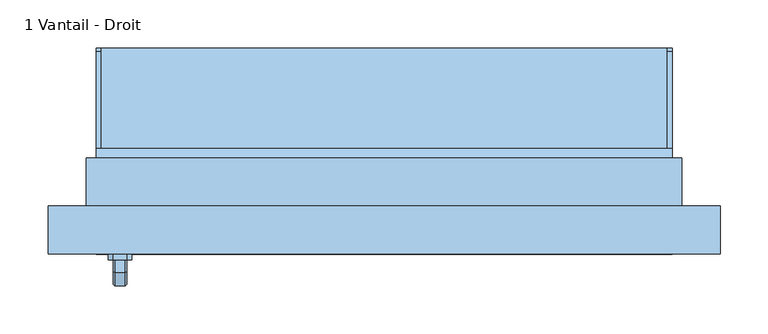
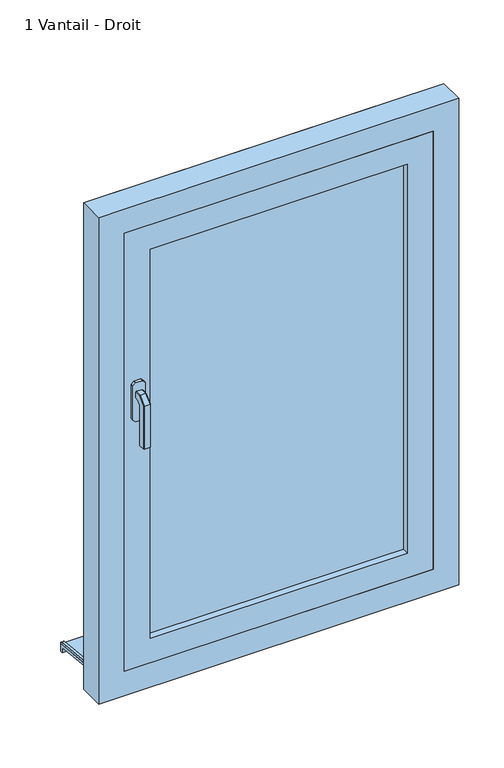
"""IFC4 building model written with IfcOpenShell, lengths in millimetres: window geometry, 1 Vantail - Droit : 0.60 m x 0.95 m - Appui en aluminium."""

from ifc_helpers import new_model, si_unit, point, frame, frame_2d, origin, place, context, project, spatial, polyline, circle_curve, trimmed, segment, composite_curve, outline, extrude, faceted_brep, source, transform, mapped, element, save


def window_1_vantail_droit_70fa9492(model_context):
    return source(origin(), model_context, "Body", "SolidModel", [
        faceted_brep([(-269.3539903, -106.0, 1422.0339292), (-267.9660708, -106.0, 1420.6460097), (-267.9660708, -106.0, 1409.3323012), (-269.3323012, -106.0, 1407.9660708), (-280.6676988, -106.0, 1407.9660708), (-282.0339292, -106.0, 1409.3323012), (-282.0339292, -106.0, 1420.6460097), (-280.6460097, -106.0, 1422.0339292), (-269.3539903, -118.9135489, 1422.0339292), (-267.9660708, -118.3386538, 1420.6460097), (-267.9660708, -131.6460097, 1407.3386538), (-267.9660708, -131.6460097, 1320.0), (-267.9660708, -120.3323012, 1320.0), (-267.9660708, -120.3323012, 1402.6523623), (-267.9660708, -113.6523623, 1409.3323012), (-269.3323012, -113.0864511, 1407.9660708), (-280.6676988, -113.0864511, 1407.9660708), (-282.0339292, -113.6523623, 1409.3323012), (-282.0339292, -120.3323012, 1402.6523623), (-282.0339292, -120.3323012, 1320.0), (-282.0339292, -131.6460097, 1320.0), (-282.0339292, -131.6460097, 1407.3386538), (-282.0339292, -118.3386538, 1420.6460097), (-280.6460097, -118.9135489, 1422.0339292), (-269.3539903, -133.0339292, 1407.9135489), (-269.3323012, -118.9660708, 1402.0864511), (-280.6676988, -118.9660708, 1402.0864511), (-280.6460097, -133.0339292, 1407.9135489), (-269.3539903, -133.0339292, 1320.0), (-280.6460097, -133.0339292, 1320.0), (-280.6676988, -118.9660708, 1320.0), (-269.3323012, -118.9660708, 1320.0)], [[[0, 1, 2, 3, 4, 5, 6, 7]], [[1, 0, 8, 9]], [[2, 1, 9, 10, 11, 12, 13, 14]], [[3, 2, 14, 15]], [[4, 3, 15, 16]], [[5, 4, 16, 17]], [[6, 5, 17, 18, 19, 20, 21, 22]], [[7, 6, 22, 23]], [[0, 7, 23, 8]], [[9, 8, 24, 10]], [[15, 14, 13, 25]], [[16, 15, 25, 26]], [[17, 16, 26, 18]], [[23, 22, 21, 27]], [[8, 23, 27, 24]], [[28, 29, 20, 19, 30, 31, 12, 11]], [[10, 24, 28, 11]], [[25, 13, 12, 31]], [[26, 25, 31, 30]], [[18, 26, 30, 19]], [[27, 21, 20, 29]], [[24, 27, 29, 28]]]),
        extrude(outline(polyline([(1440.0, -268.0), (1440.0, -282.0), (1435.0, -287.0), (1365.0, -287.0), (1360.0, -282.0), (1360.0, -268.0), (1365.0, -263.0), (1435.0, -263.0), (1440.0, -268.0)])), frame((0.0, -106.0, 0.0), z_axis=(0.0, 1.0, 0.0), x_axis=(0.0, 0.0, 1.0)), (0.0, 0.0, 1.0), 6.0),
        extrude(outline(polyline([(115.0, 776.06614), (115.0, 760.5104235), (110.0, 761.0359447), (110.0, 771.3364494), (-20.0, 785.0), (-20.0, 800.0), (-15.0, 800.0), (-15.0, 789.7296906), (115.0, 776.06614)])), frame((-300.0, 0.0, 0.0), z_axis=(1.0, 0.0, 0.0), x_axis=(0.0, 1.0, 0.0)), (0.0, 0.0, 1.0), 600.0),
        extrude(outline(composite_curve([segment(polyline([(115.0, 776.06614), (-15.0, 789.7296906), (-15.0, 794.757232), (111.4181139, 781.4701528)]), True, "CONTINUOUS"), segment(trimmed(circle_curve(frame_2d((111.0, 777.4920652)), 4.0), [point((111.4181139, 781.4701528))], [point((115.0, 777.4920652))], False, "CARTESIAN"), True, "CONTINUOUS"), segment(polyline([(115.0, 777.4920652), (115.0, 776.06614)]), True, "CONTINUOUS")], self_intersect=False)), frame((-300.0, 0.0, 0.0), z_axis=(1.0, 0.0, 0.0), x_axis=(0.0, 1.0, 0.0)), (0.0, 0.0, 1.0), 5.0),
        extrude(outline(composite_curve([segment(polyline([(115.0, 776.06614), (-15.0, 789.7296906), (-15.0, 794.757232), (111.4181139, 781.4701528)]), True, "CONTINUOUS"), segment(trimmed(circle_curve(frame_2d((111.0, 777.4920652)), 4.0), [point((111.4181139, 781.4701528))], [point((115.0, 777.4920652))], False, "CARTESIAN"), True, "CONTINUOUS"), segment(polyline([(115.0, 777.4920652), (115.0, 776.06614)]), True, "CONTINUOUS")], self_intersect=False)), frame((295.0, 0.0, 0.0), z_axis=(1.0, 0.0, 0.0), x_axis=(0.0, 1.0, 0.0)), (0.0, 0.0, 1.0), 5.0),
        extrude(outline(polyline([(-250.0, -74.0), (250.0, -74.0), (250.0, -86.0), (-250.0, -86.0), (-250.0, -74.0)])), frame((0.0, 0.0, 900.0), z_axis=(0.0, 0.0, 1.0), x_axis=(1.0, 0.0, 0.0)), (0.0, 0.0, 1.0), 800.0),
        extrude(outline(polyline([(850.0, 300.0), (1750.0, 300.0), (1750.0, -300.0), (850.0, -300.0), (850.0, 300.0)]), holes=[polyline([(900.0, -250.0), (1700.0, -250.0), (1700.0, 250.0), (900.0, 250.0), (900.0, -250.0)])]), frame((0.0, -100.0, 0.0), z_axis=(0.0, 1.0, 0.0), x_axis=(0.0, 0.0, 1.0)), (0.0, 0.0, 1.0), 40.0),
        faceted_brep([(-350.0, -100.0, 800.0), (-350.0, -50.0, 800.0), (-300.0, -50.0, 800.0), (-300.0, 0.0, 800.0), (300.0, 0.0, 800.0), (300.0, -50.0, 800.0), (350.0, -50.0, 800.0), (350.0, -100.0, 800.0), (-350.0, -100.0, 1800.0), (-350.0, -50.0, 1800.0), (350.0, -50.0, 1800.0), (300.0, -50.0, 839.3761425), (-300.0, -50.0, 839.3761425), (-285.0, -50.0, 1735.0), (-285.0, -50.0, 865.0), (285.0, -50.0, 865.0), (285.0, -50.0, 1735.0), (-300.0, 10.0, 823.2991909), (-300.0, 10.0, 795.0), (-300.0, 0.0, 795.0), (300.0, 0.0, 795.0), (300.0, 10.0, 795.0), (300.0, 10.0, 823.2991909), (350.0, -100.0, 1800.0), (300.0, -100.0, 1750.0), (300.0, -100.0, 850.0), (-300.0, -100.0, 850.0), (-300.0, -100.0, 1750.0), (-285.0, -60.0, 1735.0), (-285.0, -60.0, 865.0), (285.0, -60.0, 865.0), (285.0, -60.0, 1735.0), (300.0, -60.0, 1750.0), (-300.0, -60.0, 1750.0), (-300.0, -60.0, 850.0), (300.0, -60.0, 850.0)], [[[0, 1, 2, 3, 4, 5, 6, 7]], [[1, 0, 8, 9]], [[1, 9, 10, 6, 5, 11, 12, 2], [13, 14, 15, 16]], [[12, 17, 18, 19, 3, 2]], [[3, 19, 20, 4]], [[4, 20, 21, 22, 11, 5]], [[6, 10, 23, 7]], [[0, 7, 23, 8], [24, 25, 26, 27]], [[13, 28, 29, 14]], [[29, 30, 15, 14]], [[31, 16, 15, 30]], [[17, 12, 11, 22]], [[32, 33, 34, 35], [28, 31, 30, 29]], [[34, 33, 27, 26]], [[26, 25, 35, 34]], [[24, 32, 35, 25]], [[18, 17, 22, 21]], [[19, 18, 21, 20]], [[13, 16, 31, 28]], [[33, 32, 24, 27]], [[10, 9, 8, 23]]]),
        extrude(outline(polyline([(800.0, -310.0), (800.0, -300.0), (1750.0, -300.0), (1750.0, 300.0), (800.0, 300.0), (800.0, 310.0), (1760.0, 310.0), (1760.0, -310.0), (800.0, -310.0)])), frame((0.0, -50.0, 0.0), z_axis=(0.0, 1.0, 0.0), x_axis=(0.0, 0.0, 1.0)), (0.0, 0.0, 1.0), 50.0),
    ])


if __name__ == "__main__":
    model = new_model("IFC4")
    model_context = context("Model", 3, world=origin())
    ifc_project = project(units=[si_unit("LENGTHUNIT", "METRE", prefix="MILLI")], contexts=[model_context])
    site = spatial("IfcSite", under=ifc_project)
    building = spatial("IfcBuilding", under=site)
    placement = place(None, origin())
    window_1_vantail_droit_shape = window_1_vantail_droit_70fa9492(model_context)
    element("IfcWindow", 1, ObjectType="1 Vantail - Droit : 0.60 m x 0.95 m - Appui en aluminium", at=placement, inside=building, context=model_context, shape_type="MappedRepresentation", body=[
        mapped(window_1_vantail_droit_shape, transform((0.0, 0.0, 0.0), x_axis=(1.0, 0.0, 0.0), y_axis=(0.0, 1.0, 0.0), z_axis=(0.0, 0.0, 1.0))),
    ])
    save(model, "model.ifc")
